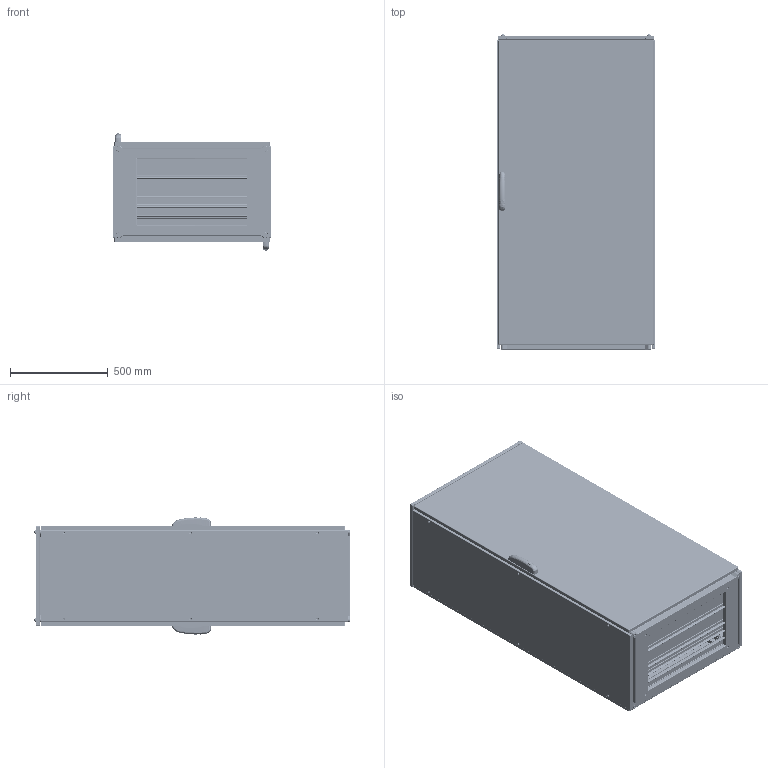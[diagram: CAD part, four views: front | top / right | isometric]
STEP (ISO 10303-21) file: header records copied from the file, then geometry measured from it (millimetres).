
FILE_DESCRIPTION (( 'STEP AP203' ), '1' );
FILE_NAME ('ENUX081605DP.STEP', '2025-05-29T11:49:15', ( '' ), ( '' ), 'SwSTEP 2.0', 'SolidWorks 2022', '' );
FILE_SCHEMA (( 'CONFIG_CONTROL_DESIGN' ));
Products named in the file (13): AR_ENUX_Fianco_0500x1600_DX; AR_ENUX_Tegolino_0800x0050; AR_ENUX_Fianco_0500x1600_SX; AR_ENUX_Tetto_0800x0500; AR_ENUX_Porta_singola_2.0_0800x1600_ANT; AR_ENUX_montaggio_porta_singlola_2.0_0800x1600_POST_DX; ENUX081605DP; AR_ENUX_Vite_tetto; AR_ENUX_nuova_maniglia_mesan; AR_ENUX_Tegolino_0800x0100; AR_ENUX_Struttura_0800x1600x0500; AR_ENUX_Porta_singola_2.0_0800x1600_POST; AR_ENUX_montaggio_porta_singlola_2.0_0800x1600_ANT_DX
Assembly tree (18 placements, depth 3):
  ENUX081605DP
    AR_ENUX_Struttura_0800x1600x0500
    AR_ENUX_montaggio_porta_singlola_2.0_0800x1600_ANT_DX
      AR_ENUX_Porta_singola_2.0_0800x1600_ANT
      AR_ENUX_nuova_maniglia_mesan
    AR_ENUX_montaggio_porta_singlola_2.0_0800x1600_POST_DX
      AR_ENUX_Porta_singola_2.0_0800x1600_POST
      AR_ENUX_nuova_maniglia_mesan
    AR_ENUX_Fianco_0500x1600_SX
    AR_ENUX_Fianco_0500x1600_DX
    AR_ENUX_Tetto_0800x0500
    AR_ENUX_Vite_tetto  x4
    AR_ENUX_Tegolino_0800x0100  x2
    AR_ENUX_Tegolino_0800x0050  x2
Bounding box: 812 x 1615.1 x 600 mm (x, y, z)
Volume: 12623789.8 mm3; surface area: 15794547.4 mm2
Topology: 16 solids, 16 shells, 8317 faces, 23494 edges, 15132 vertices
Faces by surface type: plane 4323, cylinder 3187, bspline 390, torus 225, cone 128, sphere 64
Entity records: 307695 total; most frequent: CARTESIAN_POINT 87071, ORIENTED_EDGE 45674, DIRECTION 43780, EDGE_CURVE 22837, VECTOR 15340, LINE 15340, VERTEX_POINT 14840, AXIS2_PLACEMENT_3D 14220
